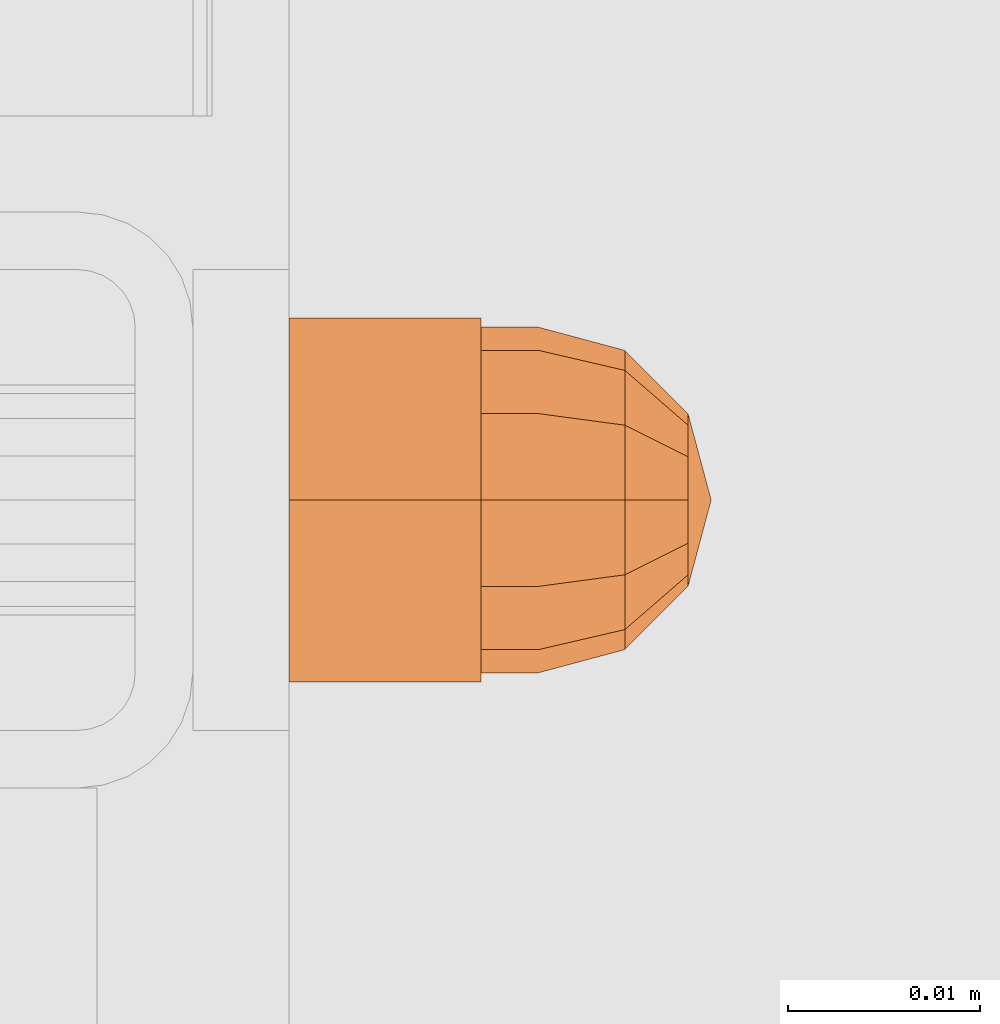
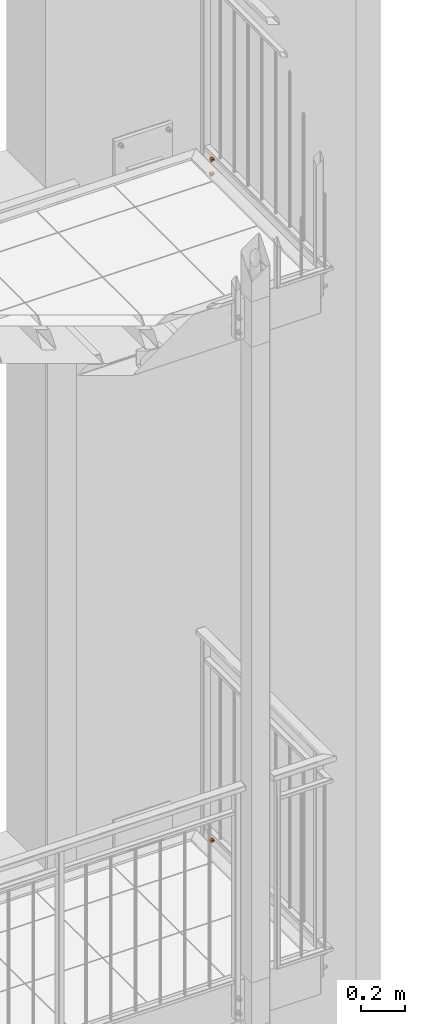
# One storey, part 162 of 162: 3 proxies.
"""IFC2X3 building model written with IfcOpenShell, lengths in millimetres."""

from ifc_helpers import new_model, entity, si_unit, converted_unit, origin_with_axes, place, context, project, spatial, faceted_brep, material, element, save


model = new_model("IFC2X3")

# Units and contexts
model_context = context("Model", 3, precision=1e-09, world=origin_with_axes())
ifc_project = project(units=[si_unit("LENGTHUNIT", "METRE", prefix="MILLI"), si_unit("AREAUNIT", "SQUARE_METRE"), si_unit("VOLUMEUNIT", "CUBIC_METRE"), converted_unit("PLANEANGLEUNIT", "DEGREE", entity("IfcPlaneAngleMeasure", 0.01745329), si_unit("PLANEANGLEUNIT", "RADIAN"), dimensions=[0, 0, 0, 0, 0, 0, 0])], contexts=[model_context])

# Site, building, storey
site_placement = place(None, origin_with_axes())
site = spatial("IfcSite", under=ifc_project, at=site_placement, Name="Hermannstra?e 1a, 60318 Frankfurt", CompositionType="ELEMENT")
building_placement = place(site_placement, origin_with_axes())
building = spatial("IfcBuilding", under=site, at=building_placement, Name="Struktur 1", CompositionType="ELEMENT")
storey_placement = place(building_placement, origin_with_axes())
storey = spatial("IfcBuildingStorey", under=building, at=storey_placement, Name="Default Storey", CompositionType="ELEMENT", Elevation=0.0)

# Proxies
ifc_material = material(Name="Kein")
proxy_1_placement = place(None, origin_with_axes())
element("IfcBuildingElementProxy", 1, at=proxy_1_placement, inside=storey, material=ifc_material, ObjectType="-", context=model_context, shape_type="Brep", body=[
    faceted_brep([(5873.30936482, 2624.609373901, 11419.999), (5883.30936482, 2624.609373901, 11419.999), (5883.30936482, 2625.413221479, 11416.999), (5873.30936482, 2625.413221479, 11416.999), (5883.30936482, 2627.609373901, 11414.802847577), (5873.30936482, 2627.609373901, 11414.802847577), (5873.30936482, 2625.413221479, 11422.999), (5883.30936482, 2625.413221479, 11422.999), (5873.30936482, 2621.129504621, 11425.472205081), (5873.30936482, 2630.609373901, 11430.945410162), (5873.30936482, 2640.089243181, 11425.472205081), (5873.30936482, 2640.089243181, 11414.525794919), (5873.30936482, 2630.609373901, 11409.052589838), (5873.30936482, 2621.129504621, 11414.525794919), (5873.30936482, 2627.609373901, 11425.195152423), (5873.30936482, 2630.609373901, 11413.999), (5873.30936482, 2633.609373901, 11414.802847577), (5873.30936482, 2635.805526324, 11416.999), (5873.30936482, 2636.609373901, 11419.999), (5873.30936482, 2635.805526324, 11422.999), (5873.30936482, 2633.609373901, 11425.195152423), (5873.30936482, 2630.609373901, 11425.999), (5883.30936482, 2630.609373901, 11430.945410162), (5883.30936482, 2621.129504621, 11425.472205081), (5883.30936482, 2621.129504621, 11414.525794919), (5883.30936482, 2630.609373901, 11409.052589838), (5883.30936482, 2640.089243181, 11414.525794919), (5883.30936482, 2640.089243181, 11425.472205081), (5883.30936482, 2627.609373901, 11425.195152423), (5883.30936482, 2630.609373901, 11425.999), (5883.30936482, 2633.609373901, 11425.195152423), (5883.30936482, 2635.805526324, 11422.999), (5883.30936482, 2636.609373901, 11419.999), (5883.30936482, 2635.805526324, 11416.999), (5883.30936482, 2633.609373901, 11414.802847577), (5883.30936482, 2630.609373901, 11413.999)], [[[0, 1, 2, 3]], [[3, 2, 4, 5]], [[1, 0, 6, 7]], [[8, 9, 10, 11, 12, 13], [14, 6, 0, 3, 5, 15, 16, 17, 18, 19, 20, 21]], [[22, 23, 24, 25, 26, 27], [1, 7, 28, 29, 30, 31, 32, 33, 34, 35, 4, 2]], [[7, 6, 14, 28]], [[24, 23, 8, 13]], [[5, 4, 35, 15]], [[13, 12, 25, 24]], [[28, 14, 21, 29]], [[23, 22, 9, 8]], [[15, 35, 34, 16]], [[12, 11, 26, 25]], [[29, 21, 20, 30]], [[22, 27, 10, 9]], [[16, 34, 33, 17]], [[27, 26, 11, 10]], [[30, 20, 19, 31]], [[17, 33, 32, 18]], [[31, 19, 18, 32]]]),
    faceted_brep([(5883.30936482, 2630.609373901, 11428.999), (5886.30936482, 2630.609373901, 11428.999), (5886.30936482, 2635.109373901, 11427.793228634), (5883.30936482, 2635.109373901, 11427.793228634), (5883.30936482, 2626.109373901, 11427.793228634), (5886.30936482, 2626.109373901, 11427.793228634), (5886.30936482, 2622.815145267, 11415.499), (5886.30936482, 2626.109373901, 11412.204771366), (5886.30936482, 2630.609373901, 11410.999), (5886.30936482, 2635.109373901, 11412.204771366), (5886.30936482, 2638.403602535, 11415.499), (5886.30936482, 2639.609373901, 11419.999), (5886.30936482, 2638.403602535, 11424.499), (5886.30936482, 2622.815145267, 11424.499), (5886.30936482, 2621.609373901, 11419.999), (5883.30936482, 2638.403602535, 11415.499), (5883.30936482, 2635.109373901, 11412.204771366), (5883.30936482, 2630.609373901, 11410.999), (5883.30936482, 2626.109373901, 11412.204771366), (5883.30936482, 2622.815145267, 11415.499), (5883.30936482, 2621.609373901, 11419.999), (5883.30936482, 2622.815145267, 11424.499), (5883.30936482, 2638.403602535, 11424.499), (5883.30936482, 2639.609373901, 11419.999)], [[[0, 1, 2, 3]], [[1, 0, 4, 5]], [[6, 7, 8, 9, 10, 11, 12, 2, 1, 5, 13, 14]], [[15, 16, 17, 18, 19, 20, 21, 4, 0, 3, 22, 23]], [[3, 2, 12, 22]], [[5, 4, 21, 13]], [[22, 12, 11, 23]], [[13, 21, 20, 14]], [[7, 18, 17, 8]], [[19, 6, 14, 20]], [[18, 7, 6, 19]], [[23, 11, 10, 15]], [[8, 17, 16, 9]], [[15, 10, 9, 16]]]),
    faceted_brep([(5886.30936482, 2622.815145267, 11424.499), (5890.80936482, 2623.859373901, 11423.896114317), (5890.80936482, 2626.712259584, 11426.749), (5886.30936482, 2626.109373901, 11427.793228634), (5886.30936482, 2638.403602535, 11415.499), (5886.30936482, 2635.109373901, 11412.204771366), (5886.30936482, 2630.609373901, 11410.999), (5886.30936482, 2626.109373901, 11412.204771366), (5886.30936482, 2622.815145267, 11415.499), (5886.30936482, 2621.609373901, 11419.999), (5886.30936482, 2630.609373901, 11428.999), (5886.30936482, 2635.109373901, 11427.793228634), (5886.30936482, 2638.403602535, 11424.499), (5886.30936482, 2639.609373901, 11419.999), (5890.80936482, 2630.609373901, 11427.793228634), (5890.80936482, 2622.815145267, 11419.999), (5894.103593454, 2626.109373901, 11419.999), (5894.103593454, 2626.712259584, 11422.249), (5890.80936482, 2634.506488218, 11426.749), (5894.103593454, 2628.359373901, 11423.896114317), (5890.80936482, 2623.859373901, 11416.101885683), (5894.103593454, 2626.712259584, 11417.749), (5894.103593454, 2630.609373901, 11424.499), (5895.30936482, 2630.609373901, 11419.999), (5890.80936482, 2626.712259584, 11413.249), (5894.103593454, 2628.359373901, 11416.101885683), (5890.80936482, 2630.609373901, 11412.204771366), (5890.80936482, 2637.359373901, 11423.896114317), (5894.103593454, 2632.859373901, 11423.896114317), (5894.103593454, 2630.609373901, 11415.499), (5890.80936482, 2634.506488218, 11413.249), (5894.103593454, 2632.859373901, 11416.101885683), (5890.80936482, 2638.403602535, 11419.999), (5894.103593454, 2634.506488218, 11422.249), (5890.80936482, 2637.359373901, 11416.101885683), (5894.103593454, 2634.506488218, 11417.749), (5894.103593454, 2635.109373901, 11419.999)], [[[0, 1, 2, 3]], [[4, 5, 6, 7, 8, 9, 0, 3, 10, 11, 12, 13]], [[3, 2, 14, 10]], [[15, 16, 17, 1]], [[1, 0, 9, 15]], [[10, 14, 18, 11]], [[1, 17, 19, 2]], [[16, 15, 20, 21]], [[2, 19, 22, 14]], [[23, 17, 16]], [[24, 25, 21, 20]], [[23, 16, 21]], [[24, 7, 6, 26]], [[20, 8, 7, 24]], [[15, 9, 8, 20]], [[11, 18, 27, 12]], [[14, 22, 28, 18]], [[23, 19, 17]], [[26, 29, 25, 24]], [[23, 21, 25]], [[23, 22, 19]], [[26, 6, 5, 30]], [[29, 26, 30, 31]], [[23, 25, 29]], [[12, 27, 32, 13]], [[18, 28, 33, 27]], [[23, 28, 22]], [[23, 29, 31]], [[23, 33, 28]], [[30, 5, 4, 34]], [[31, 30, 34, 35]], [[23, 31, 35]], [[13, 32, 34, 4]], [[27, 33, 36, 32]], [[23, 36, 33]], [[23, 35, 36]], [[35, 34, 32, 36]]]),
])
proxy_2_placement = place(None, origin_with_axes())
element("IfcBuildingElementProxy", 2, at=proxy_2_placement, inside=storey, material=ifc_material, ObjectType="-", context=model_context, shape_type="Brep", body=[
    faceted_brep([(5873.30936482, 2624.609373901, 15096.999), (5883.30936482, 2624.609373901, 15096.999), (5883.30936482, 2625.413221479, 15093.999), (5873.30936482, 2625.413221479, 15093.999), (5883.30936482, 2627.609373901, 15091.802847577), (5873.30936482, 2627.609373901, 15091.802847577), (5873.30936482, 2625.413221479, 15099.999), (5883.30936482, 2625.413221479, 15099.999), (5873.30936482, 2621.129504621, 15102.472205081), (5873.30936482, 2630.609373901, 15107.945410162), (5873.30936482, 2640.089243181, 15102.472205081), (5873.30936482, 2640.089243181, 15091.525794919), (5873.30936482, 2630.609373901, 15086.052589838), (5873.30936482, 2621.129504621, 15091.525794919), (5873.30936482, 2627.609373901, 15102.195152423), (5873.30936482, 2630.609373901, 15090.999), (5873.30936482, 2633.609373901, 15091.802847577), (5873.30936482, 2635.805526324, 15093.999), (5873.30936482, 2636.609373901, 15096.999), (5873.30936482, 2635.805526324, 15099.999), (5873.30936482, 2633.609373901, 15102.195152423), (5873.30936482, 2630.609373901, 15102.999), (5883.30936482, 2630.609373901, 15107.945410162), (5883.30936482, 2621.129504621, 15102.472205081), (5883.30936482, 2621.129504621, 15091.525794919), (5883.30936482, 2630.609373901, 15086.052589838), (5883.30936482, 2640.089243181, 15091.525794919), (5883.30936482, 2640.089243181, 15102.472205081), (5883.30936482, 2627.609373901, 15102.195152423), (5883.30936482, 2630.609373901, 15102.999), (5883.30936482, 2633.609373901, 15102.195152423), (5883.30936482, 2635.805526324, 15099.999), (5883.30936482, 2636.609373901, 15096.999), (5883.30936482, 2635.805526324, 15093.999), (5883.30936482, 2633.609373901, 15091.802847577), (5883.30936482, 2630.609373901, 15090.999)], [[[0, 1, 2, 3]], [[3, 2, 4, 5]], [[1, 0, 6, 7]], [[8, 9, 10, 11, 12, 13], [14, 6, 0, 3, 5, 15, 16, 17, 18, 19, 20, 21]], [[22, 23, 24, 25, 26, 27], [1, 7, 28, 29, 30, 31, 32, 33, 34, 35, 4, 2]], [[7, 6, 14, 28]], [[24, 23, 8, 13]], [[5, 4, 35, 15]], [[13, 12, 25, 24]], [[28, 14, 21, 29]], [[23, 22, 9, 8]], [[15, 35, 34, 16]], [[12, 11, 26, 25]], [[29, 21, 20, 30]], [[22, 27, 10, 9]], [[16, 34, 33, 17]], [[27, 26, 11, 10]], [[30, 20, 19, 31]], [[17, 33, 32, 18]], [[31, 19, 18, 32]]]),
    faceted_brep([(5883.30936482, 2630.609373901, 15105.999), (5886.30936482, 2630.609373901, 15105.999), (5886.30936482, 2635.109373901, 15104.793228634), (5883.30936482, 2635.109373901, 15104.793228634), (5883.30936482, 2626.109373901, 15104.793228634), (5886.30936482, 2626.109373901, 15104.793228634), (5886.30936482, 2622.815145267, 15092.499), (5886.30936482, 2626.109373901, 15089.204771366), (5886.30936482, 2630.609373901, 15087.999), (5886.30936482, 2635.109373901, 15089.204771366), (5886.30936482, 2638.403602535, 15092.499), (5886.30936482, 2639.609373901, 15096.999), (5886.30936482, 2638.403602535, 15101.499), (5886.30936482, 2622.815145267, 15101.499), (5886.30936482, 2621.609373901, 15096.999), (5883.30936482, 2638.403602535, 15092.499), (5883.30936482, 2635.109373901, 15089.204771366), (5883.30936482, 2630.609373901, 15087.999), (5883.30936482, 2626.109373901, 15089.204771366), (5883.30936482, 2622.815145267, 15092.499), (5883.30936482, 2621.609373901, 15096.999), (5883.30936482, 2622.815145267, 15101.499), (5883.30936482, 2638.403602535, 15101.499), (5883.30936482, 2639.609373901, 15096.999)], [[[0, 1, 2, 3]], [[1, 0, 4, 5]], [[6, 7, 8, 9, 10, 11, 12, 2, 1, 5, 13, 14]], [[15, 16, 17, 18, 19, 20, 21, 4, 0, 3, 22, 23]], [[3, 2, 12, 22]], [[5, 4, 21, 13]], [[22, 12, 11, 23]], [[13, 21, 20, 14]], [[7, 18, 17, 8]], [[19, 6, 14, 20]], [[18, 7, 6, 19]], [[23, 11, 10, 15]], [[8, 17, 16, 9]], [[15, 10, 9, 16]]]),
    faceted_brep([(5886.30936482, 2622.815145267, 15101.499), (5890.80936482, 2623.859373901, 15100.896114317), (5890.80936482, 2626.712259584, 15103.749), (5886.30936482, 2626.109373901, 15104.793228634), (5886.30936482, 2638.403602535, 15092.499), (5886.30936482, 2635.109373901, 15089.204771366), (5886.30936482, 2630.609373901, 15087.999), (5886.30936482, 2626.109373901, 15089.204771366), (5886.30936482, 2622.815145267, 15092.499), (5886.30936482, 2621.609373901, 15096.999), (5886.30936482, 2630.609373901, 15105.999), (5886.30936482, 2635.109373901, 15104.793228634), (5886.30936482, 2638.403602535, 15101.499), (5886.30936482, 2639.609373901, 15096.999), (5890.80936482, 2630.609373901, 15104.793228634), (5890.80936482, 2622.815145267, 15096.999), (5894.103593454, 2626.109373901, 15096.999), (5894.103593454, 2626.712259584, 15099.249), (5890.80936482, 2634.506488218, 15103.749), (5894.103593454, 2628.359373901, 15100.896114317), (5890.80936482, 2623.859373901, 15093.101885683), (5894.103593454, 2626.712259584, 15094.749), (5894.103593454, 2630.609373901, 15101.499), (5895.30936482, 2630.609373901, 15096.999), (5890.80936482, 2626.712259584, 15090.249), (5894.103593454, 2628.359373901, 15093.101885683), (5890.80936482, 2630.609373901, 15089.204771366), (5890.80936482, 2637.359373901, 15100.896114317), (5894.103593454, 2632.859373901, 15100.896114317), (5894.103593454, 2630.609373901, 15092.499), (5890.80936482, 2634.506488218, 15090.249), (5894.103593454, 2632.859373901, 15093.101885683), (5890.80936482, 2638.403602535, 15096.999), (5894.103593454, 2634.506488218, 15099.249), (5890.80936482, 2637.359373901, 15093.101885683), (5894.103593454, 2634.506488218, 15094.749), (5894.103593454, 2635.109373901, 15096.999)], [[[0, 1, 2, 3]], [[4, 5, 6, 7, 8, 9, 0, 3, 10, 11, 12, 13]], [[3, 2, 14, 10]], [[15, 16, 17, 1]], [[1, 0, 9, 15]], [[10, 14, 18, 11]], [[1, 17, 19, 2]], [[16, 15, 20, 21]], [[2, 19, 22, 14]], [[23, 17, 16]], [[24, 25, 21, 20]], [[23, 16, 21]], [[24, 7, 6, 26]], [[20, 8, 7, 24]], [[15, 9, 8, 20]], [[11, 18, 27, 12]], [[14, 22, 28, 18]], [[23, 19, 17]], [[26, 29, 25, 24]], [[23, 21, 25]], [[23, 22, 19]], [[26, 6, 5, 30]], [[29, 26, 30, 31]], [[23, 25, 29]], [[12, 27, 32, 13]], [[18, 28, 33, 27]], [[23, 28, 22]], [[23, 29, 31]], [[23, 33, 28]], [[30, 5, 4, 34]], [[31, 30, 34, 35]], [[23, 31, 35]], [[13, 32, 34, 4]], [[27, 33, 36, 32]], [[23, 36, 33]], [[23, 35, 36]], [[35, 34, 32, 36]]]),
])
proxy_3_placement = place(None, origin_with_axes())
element("IfcBuildingElementProxy", 3, at=proxy_3_placement, inside=storey, material=ifc_material, ObjectType="-", context=model_context, shape_type="Brep", body=[
    faceted_brep([(5873.30936482, 2624.609373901, 15176.999), (5883.30936482, 2624.609373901, 15176.999), (5883.30936482, 2625.413221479, 15173.999), (5873.30936482, 2625.413221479, 15173.999), (5883.30936482, 2627.609373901, 15171.802847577), (5873.30936482, 2627.609373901, 15171.802847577), (5873.30936482, 2625.413221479, 15179.999), (5883.30936482, 2625.413221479, 15179.999), (5873.30936482, 2621.129504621, 15182.472205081), (5873.30936482, 2630.609373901, 15187.945410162), (5873.30936482, 2640.089243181, 15182.472205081), (5873.30936482, 2640.089243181, 15171.525794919), (5873.30936482, 2630.609373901, 15166.052589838), (5873.30936482, 2621.129504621, 15171.525794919), (5873.30936482, 2627.609373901, 15182.195152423), (5873.30936482, 2630.609373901, 15170.999), (5873.30936482, 2633.609373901, 15171.802847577), (5873.30936482, 2635.805526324, 15173.999), (5873.30936482, 2636.609373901, 15176.999), (5873.30936482, 2635.805526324, 15179.999), (5873.30936482, 2633.609373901, 15182.195152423), (5873.30936482, 2630.609373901, 15182.999), (5883.30936482, 2630.609373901, 15187.945410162), (5883.30936482, 2621.129504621, 15182.472205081), (5883.30936482, 2621.129504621, 15171.525794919), (5883.30936482, 2630.609373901, 15166.052589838), (5883.30936482, 2640.089243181, 15171.525794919), (5883.30936482, 2640.089243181, 15182.472205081), (5883.30936482, 2627.609373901, 15182.195152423), (5883.30936482, 2630.609373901, 15182.999), (5883.30936482, 2633.609373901, 15182.195152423), (5883.30936482, 2635.805526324, 15179.999), (5883.30936482, 2636.609373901, 15176.999), (5883.30936482, 2635.805526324, 15173.999), (5883.30936482, 2633.609373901, 15171.802847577), (5883.30936482, 2630.609373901, 15170.999)], [[[0, 1, 2, 3]], [[3, 2, 4, 5]], [[1, 0, 6, 7]], [[8, 9, 10, 11, 12, 13], [14, 6, 0, 3, 5, 15, 16, 17, 18, 19, 20, 21]], [[22, 23, 24, 25, 26, 27], [1, 7, 28, 29, 30, 31, 32, 33, 34, 35, 4, 2]], [[7, 6, 14, 28]], [[24, 23, 8, 13]], [[5, 4, 35, 15]], [[13, 12, 25, 24]], [[28, 14, 21, 29]], [[23, 22, 9, 8]], [[15, 35, 34, 16]], [[12, 11, 26, 25]], [[29, 21, 20, 30]], [[22, 27, 10, 9]], [[16, 34, 33, 17]], [[27, 26, 11, 10]], [[30, 20, 19, 31]], [[17, 33, 32, 18]], [[31, 19, 18, 32]]]),
    faceted_brep([(5883.30936482, 2630.609373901, 15185.999), (5886.30936482, 2630.609373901, 15185.999), (5886.30936482, 2635.109373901, 15184.793228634), (5883.30936482, 2635.109373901, 15184.793228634), (5883.30936482, 2626.109373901, 15184.793228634), (5886.30936482, 2626.109373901, 15184.793228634), (5886.30936482, 2622.815145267, 15172.499), (5886.30936482, 2626.109373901, 15169.204771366), (5886.30936482, 2630.609373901, 15167.999), (5886.30936482, 2635.109373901, 15169.204771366), (5886.30936482, 2638.403602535, 15172.499), (5886.30936482, 2639.609373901, 15176.999), (5886.30936482, 2638.403602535, 15181.499), (5886.30936482, 2622.815145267, 15181.499), (5886.30936482, 2621.609373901, 15176.999), (5883.30936482, 2638.403602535, 15172.499), (5883.30936482, 2635.109373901, 15169.204771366), (5883.30936482, 2630.609373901, 15167.999), (5883.30936482, 2626.109373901, 15169.204771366), (5883.30936482, 2622.815145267, 15172.499), (5883.30936482, 2621.609373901, 15176.999), (5883.30936482, 2622.815145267, 15181.499), (5883.30936482, 2638.403602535, 15181.499), (5883.30936482, 2639.609373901, 15176.999)], [[[0, 1, 2, 3]], [[1, 0, 4, 5]], [[6, 7, 8, 9, 10, 11, 12, 2, 1, 5, 13, 14]], [[15, 16, 17, 18, 19, 20, 21, 4, 0, 3, 22, 23]], [[3, 2, 12, 22]], [[5, 4, 21, 13]], [[22, 12, 11, 23]], [[13, 21, 20, 14]], [[7, 18, 17, 8]], [[19, 6, 14, 20]], [[18, 7, 6, 19]], [[23, 11, 10, 15]], [[8, 17, 16, 9]], [[15, 10, 9, 16]]]),
    faceted_brep([(5886.30936482, 2622.815145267, 15181.499), (5890.80936482, 2623.859373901, 15180.896114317), (5890.80936482, 2626.712259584, 15183.749), (5886.30936482, 2626.109373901, 15184.793228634), (5886.30936482, 2638.403602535, 15172.499), (5886.30936482, 2635.109373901, 15169.204771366), (5886.30936482, 2630.609373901, 15167.999), (5886.30936482, 2626.109373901, 15169.204771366), (5886.30936482, 2622.815145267, 15172.499), (5886.30936482, 2621.609373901, 15176.999), (5886.30936482, 2630.609373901, 15185.999), (5886.30936482, 2635.109373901, 15184.793228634), (5886.30936482, 2638.403602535, 15181.499), (5886.30936482, 2639.609373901, 15176.999), (5890.80936482, 2630.609373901, 15184.793228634), (5890.80936482, 2622.815145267, 15176.999), (5894.103593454, 2626.109373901, 15176.999), (5894.103593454, 2626.712259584, 15179.249), (5890.80936482, 2634.506488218, 15183.749), (5894.103593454, 2628.359373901, 15180.896114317), (5890.80936482, 2623.859373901, 15173.101885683), (5894.103593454, 2626.712259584, 15174.749), (5894.103593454, 2630.609373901, 15181.499), (5895.30936482, 2630.609373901, 15176.999), (5890.80936482, 2626.712259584, 15170.249), (5894.103593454, 2628.359373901, 15173.101885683), (5890.80936482, 2630.609373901, 15169.204771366), (5890.80936482, 2637.359373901, 15180.896114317), (5894.103593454, 2632.859373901, 15180.896114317), (5894.103593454, 2630.609373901, 15172.499), (5890.80936482, 2634.506488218, 15170.249), (5894.103593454, 2632.859373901, 15173.101885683), (5890.80936482, 2638.403602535, 15176.999), (5894.103593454, 2634.506488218, 15179.249), (5890.80936482, 2637.359373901, 15173.101885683), (5894.103593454, 2634.506488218, 15174.749), (5894.103593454, 2635.109373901, 15176.999)], [[[0, 1, 2, 3]], [[4, 5, 6, 7, 8, 9, 0, 3, 10, 11, 12, 13]], [[3, 2, 14, 10]], [[15, 16, 17, 1]], [[1, 0, 9, 15]], [[10, 14, 18, 11]], [[1, 17, 19, 2]], [[16, 15, 20, 21]], [[2, 19, 22, 14]], [[23, 17, 16]], [[24, 25, 21, 20]], [[23, 16, 21]], [[24, 7, 6, 26]], [[20, 8, 7, 24]], [[15, 9, 8, 20]], [[11, 18, 27, 12]], [[14, 22, 28, 18]], [[23, 19, 17]], [[26, 29, 25, 24]], [[23, 21, 25]], [[23, 22, 19]], [[26, 6, 5, 30]], [[29, 26, 30, 31]], [[23, 25, 29]], [[12, 27, 32, 13]], [[18, 28, 33, 27]], [[23, 28, 22]], [[23, 29, 31]], [[23, 33, 28]], [[30, 5, 4, 34]], [[31, 30, 34, 35]], [[23, 31, 35]], [[13, 32, 34, 4]], [[27, 33, 36, 32]], [[23, 36, 33]], [[23, 35, 36]], [[35, 34, 32, 36]]]),
])

save(model, "model.ifc")
